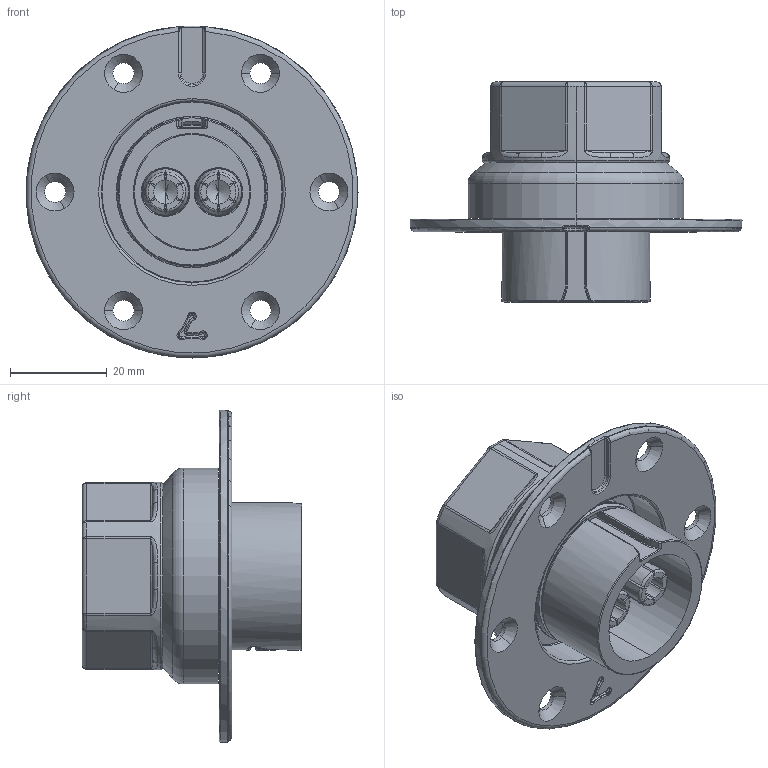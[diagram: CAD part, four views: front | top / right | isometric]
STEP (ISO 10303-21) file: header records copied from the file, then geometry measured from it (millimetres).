
FILE_DESCRIPTION((''),'2;1');
FILE_NAME('LCN-EC8X2-PMM_ASM','2025-06-27T12:56:48',('Neil'),(''),'CREO PARAMETRIC BY PTC INC, 2023134','CREO PARAMETRIC BY PTC INC, 2023134','');
FILE_SCHEMA(('AUTOMOTIVE_DESIGN { 1 0 10303 214 1 1 1 1 }'));
Length unit declared in the file: millimetre
Products named in the file (1): LCN-EC8X2-PMM_ASM
Bounding box: 68.6 x 45.45 x 68.6 mm (x, y, z)
Surface area: 19264.9 mm2 (no closed solid volume)
Topology: 0 solids, 18 shells, 301 faces, 875 edges, 562 vertices
Faces by surface type: cylinder 84, plane 62, torus 58, cone 52, bspline 33, sphere 12
Entity records: 17981 total; most frequent: CARTESIAN_POINT 8133, DIRECTION 1721, ORIENTED_EDGE 1449, EDGE_CURVE 867, AXIS2_PLACEMENT_3D 732, VERTEX_POINT 562, CIRCLE 463, EDGE_LOOP 331
